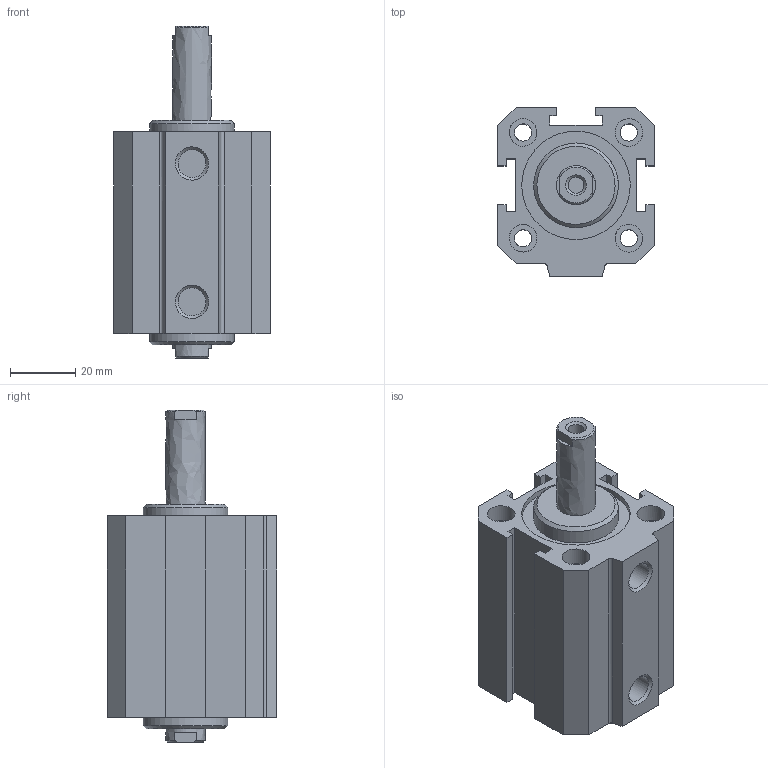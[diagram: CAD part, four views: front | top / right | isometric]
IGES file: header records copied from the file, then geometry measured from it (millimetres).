
Global section: file name: 1514_32_0025; native system: Autodesk Inventor 2014; preprocessor: unknown; author: A. Manieri; date: 20160824.113523; units: millimetre
Bounding box: 48 x 52 x 102 mm (x, y, z)
Volume: 109032.8 mm3; surface area: 38046.9 mm2
Topology: 2 solids, 2 shells, 106 faces, 276 edges, 194 vertices
Faces by surface type: bspline 106
